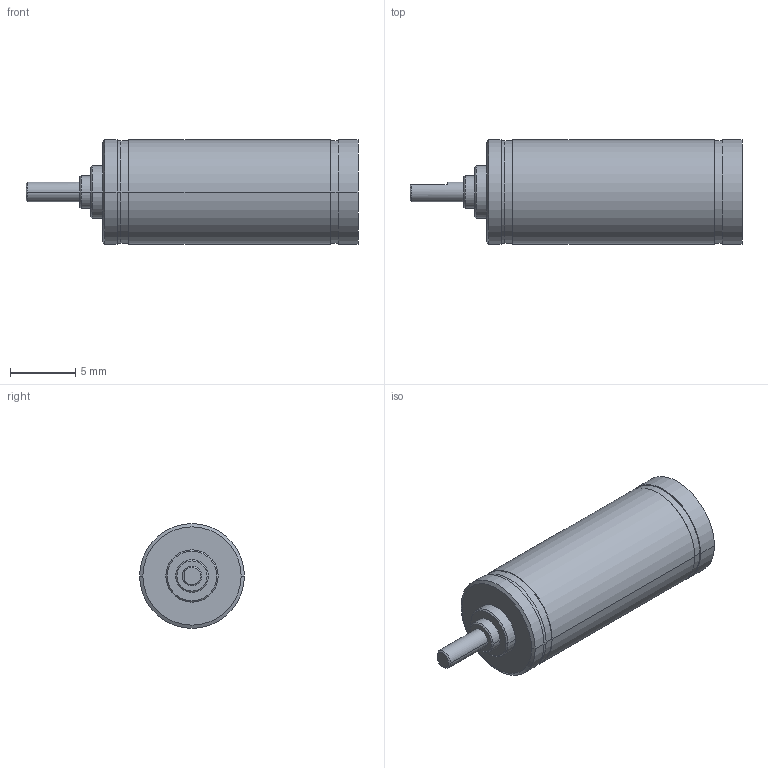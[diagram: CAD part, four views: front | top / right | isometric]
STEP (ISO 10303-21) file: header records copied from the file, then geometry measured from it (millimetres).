
FILE_DESCRIPTION((''),'2;1');
FILE_NAME('GP8A_5-STUFIG_381898','2013-05-21T',('MMAGPETK'),(''),'PRO/ENGINEER BY PARAMETRIC TECHNOLOGY CORPORATION, 2012010','PRO/ENGINEER BY PARAMETRIC TECHNOLOGY CORPORATION, 2012010','');
FILE_SCHEMA(('CONFIG_CONTROL_DESIGN'));
Length unit declared in the file: millimetre
Products named in the file (1): GP8A_5-STUFIG_381898
Bounding box: 25.35 x 8 x 8 mm (x, y, z)
Volume: 984.6 mm3; surface area: 657.4 mm2
Topology: 1 solids, 2 shells, 161 faces, 449 edges, 299 vertices
Faces by surface type: cylinder 111, extrusion 30, plane 13, cone 7
Entity records: 5445 total; most frequent: CARTESIAN_POINT 1153, DIRECTION 911, ORIENTED_EDGE 898, EDGE_CURVE 449, AXIS2_PLACEMENT_3D 365, VERTEX_POINT 299, CIRCLE 234, VECTOR 181
